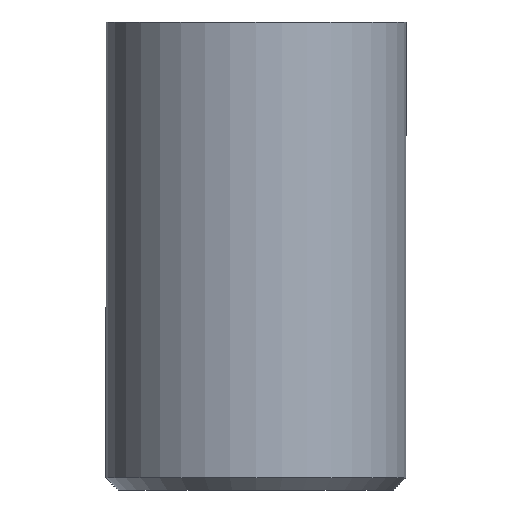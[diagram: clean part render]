
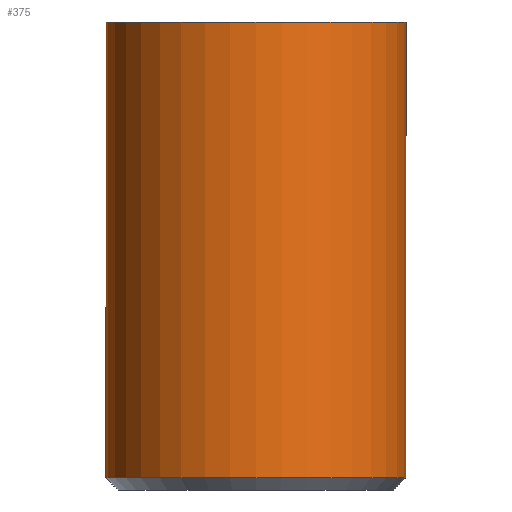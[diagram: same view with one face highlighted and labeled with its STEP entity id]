
A CAD part, front view. The second image highlights one B-rep face of the part: STEP entity #375.
In plain terms, the highlighted cylindrical face has radius 12.5 mm (diameter 25 mm), a partial arc.
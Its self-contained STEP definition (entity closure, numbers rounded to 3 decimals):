
#3 = VERTEX_POINT ( 'NONE', #149 ) ;
#22 = EDGE_CURVE ( 'NONE', #80, #359, #407, .T. ) ;
#23 = CARTESIAN_POINT ( 'NONE',  ( 12.5, 0., -0.5 ) ) ;
#27 = EDGE_LOOP ( 'NONE', ( #293, #226, #475, #396 ) ) ;
#43 = DIRECTION ( 'NONE',  ( -1., 0., 0. ) ) ;
#72 = AXIS2_PLACEMENT_3D ( 'NONE', #488, #440, #358 ) ;
#77 = DIRECTION ( 'NONE',  ( -1., 0., 0. ) ) ;
#80 = VERTEX_POINT ( 'NONE', #391 ) ;
#118 = FACE_OUTER_BOUND ( 'NONE', #27, .T. ) ;
#120 = DIRECTION ( 'NONE',  ( 0., 0., -1. ) ) ;
#133 = VERTEX_POINT ( 'NONE', #23 ) ;
#144 = CARTESIAN_POINT ( 'NONE',  ( -12.5, 0., -38.5 ) ) ;
#149 = CARTESIAN_POINT ( 'NONE',  ( 12.5, 0., -38.5 ) ) ;
#212 = CIRCLE ( 'NONE', #72, 12.5 ) ;
#226 = ORIENTED_EDGE ( 'NONE', *, *, #331, .T. ) ;
#251 = CARTESIAN_POINT ( 'NONE',  ( -12.5, 0., -0.5 ) ) ;
#254 = VECTOR ( 'NONE', #120, 1000. ) ;
#262 = DIRECTION ( 'NONE',  ( 0., 0., -1. ) ) ;
#265 = CARTESIAN_POINT ( 'NONE',  ( 0., 0., -0.5 ) ) ;
#278 = AXIS2_PLACEMENT_3D ( 'NONE', #265, #578, #43 ) ;
#293 = ORIENTED_EDGE ( 'NONE', *, *, #470, .F. ) ;
#331 = EDGE_CURVE ( 'NONE', #133, #80, #471, .T. ) ;
#332 = VECTOR ( 'NONE', #262, 1000. ) ;
#347 = CYLINDRICAL_SURFACE ( 'NONE', #461, 12.5 ) ;
#358 = DIRECTION ( 'NONE',  ( 1., 0., 0. ) ) ;
#359 = VERTEX_POINT ( 'NONE', #144 ) ;
#375 = ADVANCED_FACE ( 'NONE', ( #118 ), #347, .T. ) ;
#388 = LINE ( 'NONE', #398, #332 ) ;
#391 = CARTESIAN_POINT ( 'NONE',  ( -12.5, 0., -0.5 ) ) ;
#395 = DIRECTION ( 'NONE',  ( 0., 0., -1. ) ) ;
#396 = ORIENTED_EDGE ( 'NONE', *, *, #462, .T. ) ;
#398 = CARTESIAN_POINT ( 'NONE',  ( 12.5, 0., -0.5 ) ) ;
#407 = LINE ( 'NONE', #251, #254 ) ;
#440 = DIRECTION ( 'NONE',  ( 0., 0., 1. ) ) ;
#461 = AXIS2_PLACEMENT_3D ( 'NONE', #473, #395, #77 ) ;
#462 = EDGE_CURVE ( 'NONE', #359, #3, #212, .T. ) ;
#470 = EDGE_CURVE ( 'NONE', #133, #3, #388, .T. ) ;
#471 = CIRCLE ( 'NONE', #278, 12.5 ) ;
#473 = CARTESIAN_POINT ( 'NONE',  ( 0., 0., -0.5 ) ) ;
#475 = ORIENTED_EDGE ( 'NONE', *, *, #22, .T. ) ;
#488 = CARTESIAN_POINT ( 'NONE',  ( 0., 0., -38.5 ) ) ;
#578 = DIRECTION ( 'NONE',  ( 0., 0., -1. ) ) ;
